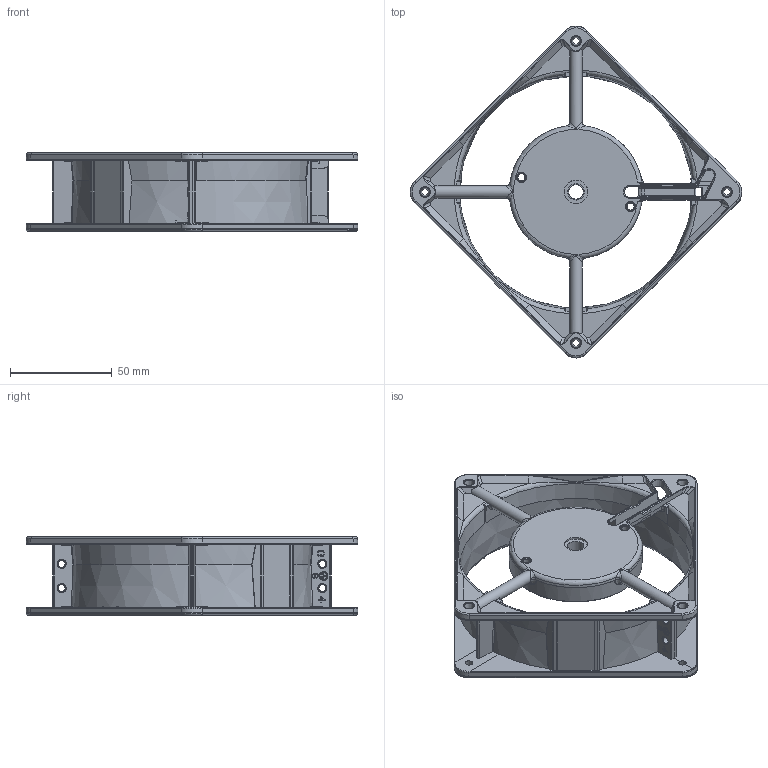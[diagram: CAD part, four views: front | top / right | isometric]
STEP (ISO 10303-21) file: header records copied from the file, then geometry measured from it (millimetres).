
FILE_DESCRIPTION(/* description */ (''),/* implementation_level */ '2;1');
FILE_NAME(/* name */ '12038产品.stp',/* time_stamp */ '2024-11-27T14:56:23+08:00',/* author */ (''),/* organization */ (''),/* preprocessor_version */ 'ST-DEVELOPER v16',/* originating_system */ 'SIEMENS PLM Software NX 10.0',/* authorisation */ '');
FILE_SCHEMA (('AUTOMOTIVE_DESIGN { 1 0 10303 214 3 1 1 1 }'));
Products named in the file (1): Admi36FC2F57hcg6
Bounding box: 162.93 x 162.93 x 38.54 mm (x, y, z)
Volume: 46432.1 mm3; surface area: 58631.4 mm2
Topology: 1 solids, 1 shells, 1309 faces, 3537 edges, 2288 vertices
Faces by surface type: plane 729, bspline 271, cylinder 180, cone 72, extrusion 41, torus 16
Full cylindrical faces by diameter (mm): 3.483 x7, 3.6 x2, 4.2 x2, 6 x3, 6.993 x1, 8 x2, 11.5 x1, 65.251 x1
Entity records: 50678 total; most frequent: CARTESIAN_POINT 20199, ORIENTED_EDGE 6894, DIRECTION 5242, EDGE_CURVE 3447, VERTEX_POINT 2255, VECTOR 2028, LINE 1987, AXIS2_PLACEMENT_3D 1607
